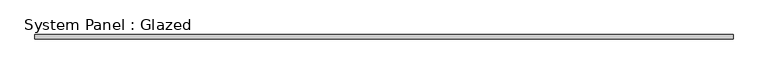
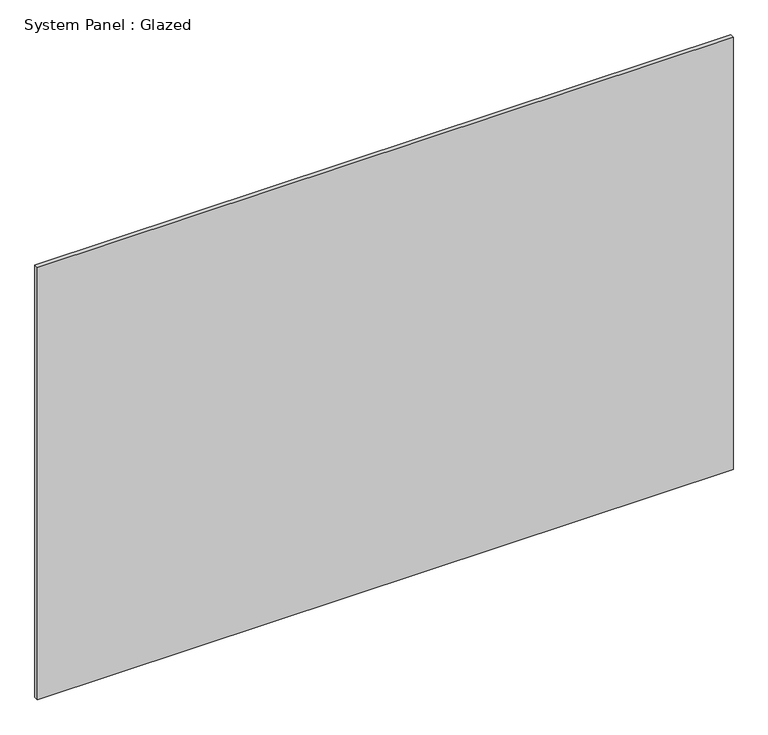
"""IFC4 building model written with IfcOpenShell, lengths in millimetres: plate geometry, System Panel : Glazed."""

from ifc_helpers import new_model, si_unit, origin, origin_with_axes, place, context, project, spatial, polyline, outline, extrude, source, transform, mapped, element, save


def system_panel_glazed_52ea2533(model_context):
    return source(origin(), model_context, "Body", "SweptSolid", [
        extrude(outline(polyline([(2092.5, 24.5), (-2092.5, 24.5), (-2092.5, 49.5), (2092.5, 49.5), (2092.5, 24.5)])), origin_with_axes(), (0.0, 0.0, 1.0), 2750.0),
    ])


if __name__ == "__main__":
    model = new_model("IFC4")
    model_context = context("Model", 3, world=origin())
    ifc_project = project(units=[si_unit("LENGTHUNIT", "METRE", prefix="MILLI")], contexts=[model_context])
    site = spatial("IfcSite", under=ifc_project)
    building = spatial("IfcBuilding", under=site)
    placement = place(None, origin())
    system_panel_glazed_shape = system_panel_glazed_52ea2533(model_context)
    element("IfcPlate", 1, ObjectType="System Panel : Glazed", at=placement, inside=building, context=model_context, shape_type="MappedRepresentation", body=[
        mapped(system_panel_glazed_shape, transform((0.0, 0.0, 0.0), x_axis=(1.0, 0.0, 0.0), y_axis=(0.0, 1.0, 0.0), z_axis=(0.0, 0.0, 1.0))),
    ])
    save(model, "model.ifc")
